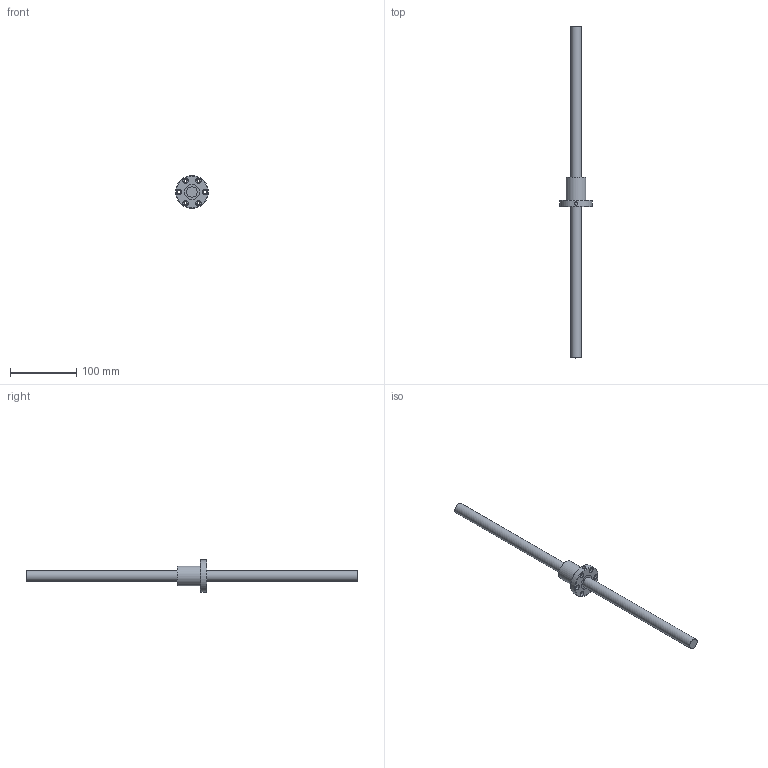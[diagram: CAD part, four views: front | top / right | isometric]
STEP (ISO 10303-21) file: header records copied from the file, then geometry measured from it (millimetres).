
FILE_DESCRIPTION(/* description */ (''),/* implementation_level */ '2;1');
FILE_NAME(/* name */ '1605.stp',/* time_stamp */ '2014-07-14T15:24:26+08:00',/* author */ (''),/* organization */ (''),/* preprocessor_version */ 'ST-DEVELOPER v11',/* originating_system */ 'SIEMENS UGS NX 6.0',/* authorisation */ '');
FILE_SCHEMA (('CONFIG_CONTROL_DESIGN'));
Length unit declared in the file: millimetre
Products named in the file (1): kcc27CCovbv
Bounding box: 49 x 500 x 49 mm (x, y, z)
Volume: 133063 mm3; surface area: 38789.6 mm2
Topology: 4 solids, 4 shells, 44 faces, 78 edges, 51 vertices
Faces by surface type: cylinder 23, plane 18, torus 3
Full cylindrical faces by diameter (mm): 4.5 x6, 5 x1, 8 x6, 16 x4, 23 x4, 30 x1, 49 x1
Entity records: 1104 total; most frequent: CARTESIAN_POINT 200, DIRECTION 186, EDGE_LOOP 98, ORIENTED_EDGE 98, FACE_BOUND 95, AXIS2_PLACEMENT_3D 93, VERTEX_POINT 49, EDGE_CURVE 49
